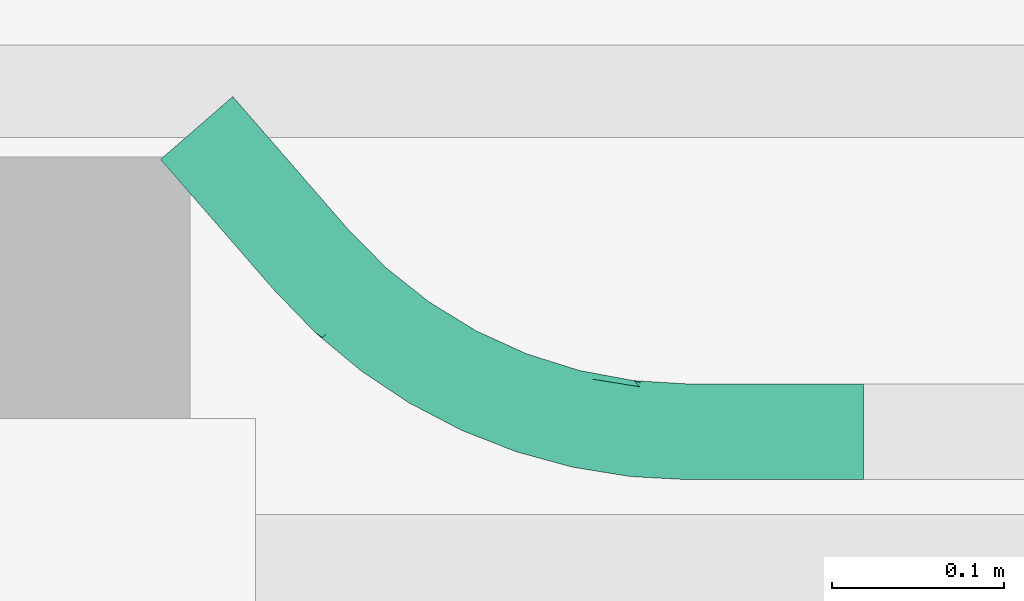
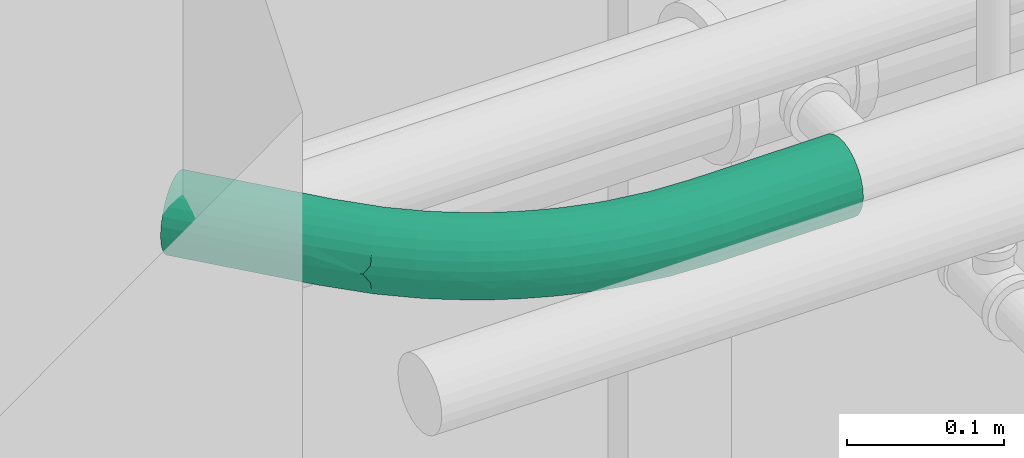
# One storey, part 107 of 108: 1 cable carrier fitting.
"""IFC4 building model written with IfcOpenShell, lengths in feet."""

from ifc_helpers import new_model, entity, si_unit, converted_unit, derived_unit, direction, frame, origin, place, context, subcontext, project, spatial, source, transform, mapped, type_object, type_shapes, element, save


model = new_model("IFC4")

# Units and contexts
model_context = context("Model", 3, precision=0.0001, world=origin(), true_north=direction((6.12303176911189e-17, 1.0)))
body_context = subcontext(model_context, "Body", "Model", "MODEL_VIEW")
ifc_project = project(units=[converted_unit("LENGTHUNIT", "FOOT", entity("IfcRatioMeasure", 0.3048), si_unit("LENGTHUNIT", "METRE"), dimensions=[1, 0, 0, 0, 0, 0, 0]), converted_unit("AREAUNIT", "SQUARE FOOT", entity("IfcRatioMeasure", 0.09290304), si_unit("AREAUNIT", "SQUARE_METRE"), dimensions=[2, 0, 0, 0, 0, 0, 0]), converted_unit("VOLUMEUNIT", "CUBIC FOOT", entity("IfcRatioMeasure", 0.028316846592), si_unit("VOLUMEUNIT", "CUBIC_METRE"), dimensions=[3, 0, 0, 0, 0, 0, 0]), converted_unit("PLANEANGLEUNIT", "DEGREE", entity("IfcRatioMeasure", 0.0174532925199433), si_unit("PLANEANGLEUNIT", "RADIAN"), dimensions=[0, 0, 0, 0, 0, 0, 0]), si_unit("MASSUNIT", "GRAM", prefix="KILO"), derived_unit("MASSDENSITYUNIT", [(si_unit("MASSUNIT", "GRAM", prefix="KILO"), 1), (si_unit("LENGTHUNIT", "METRE"), -3)]), si_unit("TIMEUNIT", "SECOND"), si_unit("FREQUENCYUNIT", "HERTZ"), si_unit("THERMODYNAMICTEMPERATUREUNIT", "DEGREE_CELSIUS"), derived_unit("THERMALTRANSMITTANCEUNIT", [(si_unit("MASSUNIT", "GRAM", prefix="KILO"), 1), (si_unit("THERMODYNAMICTEMPERATUREUNIT", "KELVIN"), -1), (si_unit("TIMEUNIT", "SECOND"), -3)]), derived_unit("VOLUMETRICFLOWRATEUNIT", [(si_unit("LENGTHUNIT", "METRE"), 3), (si_unit("TIMEUNIT", "SECOND"), -1)]), si_unit("ELECTRICCURRENTUNIT", "AMPERE"), si_unit("ELECTRICVOLTAGEUNIT", "VOLT"), si_unit("POWERUNIT", "WATT"), si_unit("FORCEUNIT", "NEWTON"), si_unit("ILLUMINANCEUNIT", "LUX"), si_unit("LUMINOUSFLUXUNIT", "LUMEN"), si_unit("LUMINOUSINTENSITYUNIT", "CANDELA"), derived_unit("USERDEFINED", [(si_unit("MASSUNIT", "GRAM", prefix="KILO"), -1), (si_unit("LENGTHUNIT", "METRE"), -2), (si_unit("TIMEUNIT", "SECOND"), 3), (si_unit("LUMINOUSFLUXUNIT", "LUMEN"), 1)]), derived_unit("LINEARVELOCITYUNIT", [(si_unit("LENGTHUNIT", "METRE"), 1), (si_unit("TIMEUNIT", "SECOND"), -1)]), si_unit("PRESSUREUNIT", "PASCAL"), derived_unit("USERDEFINED", [(si_unit("LENGTHUNIT", "METRE"), -2), (si_unit("MASSUNIT", "GRAM", prefix="KILO"), 1), (si_unit("TIMEUNIT", "SECOND"), -2)])], contexts=[model_context])

# Site, building, storey
site_placement = place(None, origin())
site = spatial("IfcSite", under=ifc_project, at=site_placement, Name="Default", CompositionType="ELEMENT")
building_placement = place(site_placement, origin())
building = spatial("IfcBuilding", under=site, at=building_placement, CompositionType="ELEMENT")
storey_placement = place(building_placement, frame((0.0, 0.0, 168.0)))
storey = spatial("IfcBuildingStorey", under=building, at=storey_placement, Name="Level 15", CompositionType="ELEMENT", Elevation=168.0)

# Cable carrier fitting
cable_carrier_fitting_type = type_object("IfcCableCarrierFittingType", Name="Standard", PredefinedType="NOTDEFINED")
cartesian_point_1 = entity("IfcCartesianPoint", [-0.770070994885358, -0.0915416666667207, 0.0])
vertex_point_1 = entity("IfcVertexPoint", cartesian_point_1)
cartesian_point_2 = entity("IfcCartesianPoint", [-0.770070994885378, 0.0915416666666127, 0.0])
vertex_point_2 = entity("IfcVertexPoint", cartesian_point_2)
cartesian_point_3 = entity("IfcCartesianPoint", [-0.770070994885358, 0.0, 0.0])
ifc_direction_1 = entity("IfcDirection", [-1.0, 0.0, 0.0])
ifc_direction_2 = entity("IfcDirection", [0.0, 1.0, 0.0])
edge_curve_1 = entity("IfcEdgeCurve", vertex_point_1, vertex_point_2, entity("IfcTrimmedCurve", entity("IfcCircle", entity("IfcAxis2Placement3D", cartesian_point_3, ifc_direction_1, ifc_direction_2), 0.0915416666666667), [cartesian_point_1], [cartesian_point_2], True, "CARTESIAN"), True)
edge_curve_2 = entity("IfcEdgeCurve", vertex_point_2, vertex_point_1, entity("IfcTrimmedCurve", entity("IfcCircle", entity("IfcAxis2Placement3D", cartesian_point_3, ifc_direction_1, ifc_direction_2), 0.0915416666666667), [cartesian_point_2], [cartesian_point_1], True, "CARTESIAN"), True)
ifc_direction_3 = entity("IfcDirection", [0.0, 0.0, 1.0])
cartesian_point_4 = entity("IfcCartesianPoint", [-0.436737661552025, -0.0915416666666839, 0.0])
vertex_point_3 = entity("IfcVertexPoint", cartesian_point_4)
edge_curve_3 = entity("IfcEdgeCurve", vertex_point_1, vertex_point_3, entity("IfcTrimmedCurve", entity("IfcLine", cartesian_point_1, entity("IfcVector", entity("IfcDirection", [1.0, 0.0, 0.0]), 1.0)), [cartesian_point_1], [cartesian_point_4], True, "CARTESIAN"), True)
cartesian_point_5 = entity("IfcCartesianPoint", [-0.436737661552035, 0.0915416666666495, 0.0])
vertex_point_4 = entity("IfcVertexPoint", cartesian_point_5)
cartesian_point_6 = entity("IfcCartesianPoint", [-0.436737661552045, 0.0, 0.0])
edge_curve_4 = entity("IfcEdgeCurve", vertex_point_3, vertex_point_4, entity("IfcTrimmedCurve", entity("IfcCircle", entity("IfcAxis2Placement3D", cartesian_point_6, ifc_direction_1, ifc_direction_2), 0.0915416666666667), [cartesian_point_4], [cartesian_point_5], True, "CARTESIAN"), True)
edge_curve_5 = entity("IfcEdgeCurve", vertex_point_4, vertex_point_2, entity("IfcTrimmedCurve", entity("IfcLine", cartesian_point_2, entity("IfcVector", ifc_direction_1, 1.0)), [cartesian_point_5], [cartesian_point_2], True, "CARTESIAN"), True)
edge_curve_6 = entity("IfcEdgeCurve", vertex_point_4, vertex_point_3, entity("IfcTrimmedCurve", entity("IfcCircle", entity("IfcAxis2Placement3D", cartesian_point_6, ifc_direction_1, ifc_direction_2), 0.0915416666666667), [cartesian_point_5], [cartesian_point_4], True, "CARTESIAN"), True)
cartesian_point_7 = entity("IfcCartesianPoint", [0.217438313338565, 0.389666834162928, 0.0])
vertex_point_5 = entity("IfcVertexPoint", cartesian_point_7)
cartesian_point_8 = entity("IfcCartesianPoint", [-0.436737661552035, 0.958333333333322, 0.0])
ifc_direction_4 = entity("IfcDirection", [0.0, -1.0, 0.0])
edge_curve_7 = entity("IfcEdgeCurve", vertex_point_5, vertex_point_4, entity("IfcTrimmedCurve", entity("IfcCircle", entity("IfcAxis2Placement3D", cartesian_point_8, entity("IfcDirection", [0.0, 0.0, -1.0]), ifc_direction_4), 0.866791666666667), [cartesian_point_7], [cartesian_point_5], True, "CARTESIAN"), True)
cartesian_point_9 = entity("IfcCartesianPoint", [0.355613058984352, 0.269553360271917, 0.0])
vertex_point_6 = entity("IfcVertexPoint", cartesian_point_9)
edge_curve_8 = entity("IfcEdgeCurve", vertex_point_3, vertex_point_6, entity("IfcTrimmedCurve", entity("IfcCircle", entity("IfcAxis2Placement3D", cartesian_point_8, ifc_direction_3, ifc_direction_4), 1.049875), [cartesian_point_4], [cartesian_point_9], True, "CARTESIAN"), True)
cartesian_point_10 = entity("IfcCartesianPoint", [0.286525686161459, 0.329610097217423, 0.0])
edge_curve_9 = entity("IfcEdgeCurve", vertex_point_6, vertex_point_5, entity("IfcTrimmedCurve", entity("IfcCircle", entity("IfcAxis2Placement3D", cartesian_point_10, entity("IfcDirection", [-0.656059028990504, -0.754709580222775, 0.0]), entity("IfcDirection", [-0.754709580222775, 0.656059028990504, 0.0])), 0.0915416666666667), [cartesian_point_9], [cartesian_point_7], True, "CARTESIAN"), True)
cartesian_point_11 = entity("IfcCartesianPoint", [0.521595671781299, 0.958333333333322, 0.0])
cartesian_point_12 = entity("IfcCartesianPoint", [0.613137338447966, 0.958333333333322, 0.0])
cartesian_point_13 = entity("IfcCartesianPoint", [0.430054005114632, 0.958333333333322, 0.0])
edge_curve_10 = entity("IfcEdgeCurve", vertex_point_5, vertex_point_6, entity("IfcTrimmedCurve", entity("IfcCircle", entity("IfcAxis2Placement3D", cartesian_point_10, entity("IfcDirection", [-0.656059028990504, -0.754709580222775, 0.0]), entity("IfcDirection", [-0.754709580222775, 0.656059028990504, 0.0])), 0.0915416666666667), [cartesian_point_7], [cartesian_point_9], True, "CARTESIAN"), True)
cartesian_point_14 = entity("IfcCartesianPoint", [0.574299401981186, 0.521123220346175, 0.0])
vertex_point_7 = entity("IfcVertexPoint", cartesian_point_14)
cartesian_point_15 = entity("IfcCartesianPoint", [0.4361246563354, 0.641236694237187, 0.0])
vertex_point_8 = entity("IfcVertexPoint", cartesian_point_15)
cartesian_point_16 = entity("IfcCartesianPoint", [0.505212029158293, 0.581179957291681, 0.0])
edge_curve_11 = entity("IfcEdgeCurve", vertex_point_7, vertex_point_8, entity("IfcTrimmedCurve", entity("IfcCircle", entity("IfcAxis2Placement3D", cartesian_point_16, entity("IfcDirection", [0.656059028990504, 0.754709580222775, 0.0]), entity("IfcDirection", [-0.754709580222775, 0.656059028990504, 0.0])), 0.0915416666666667), [cartesian_point_14], [cartesian_point_15], True, "CARTESIAN"), True)
edge_curve_12 = entity("IfcEdgeCurve", vertex_point_8, vertex_point_7, entity("IfcTrimmedCurve", entity("IfcCircle", entity("IfcAxis2Placement3D", cartesian_point_16, entity("IfcDirection", [0.656059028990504, 0.754709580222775, 0.0]), entity("IfcDirection", [-0.754709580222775, 0.656059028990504, 0.0])), 0.0915416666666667), [cartesian_point_15], [cartesian_point_14], True, "CARTESIAN"), True)
edge_curve_13 = entity("IfcEdgeCurve", vertex_point_6, vertex_point_7, entity("IfcTrimmedCurve", entity("IfcLine", cartesian_point_9, entity("IfcVector", entity("IfcDirection", [0.656059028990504, 0.754709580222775, 0.0]), 1.0)), [cartesian_point_9], [cartesian_point_14], True, "CARTESIAN"), True)
edge_curve_14 = entity("IfcEdgeCurve", vertex_point_8, vertex_point_5, entity("IfcTrimmedCurve", entity("IfcLine", cartesian_point_7, entity("IfcVector", entity("IfcDirection", [-0.656059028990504, -0.754709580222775, 0.0]), 1.0)), [cartesian_point_15], [cartesian_point_7], True, "CARTESIAN"), True)
shared_shape = source(origin(), body_context, "Body", "AdvancedBrep", [
    entity("IfcAdvancedBrep", entity("IfcClosedShell", [entity("IfcAdvancedFace", [entity("IfcFaceOuterBound", entity("IfcEdgeLoop", [entity("IfcOrientedEdge", None, None, edge_curve_1, True), entity("IfcOrientedEdge", None, None, edge_curve_2, True)]), True)], entity("IfcPlane", entity("IfcAxis2Placement3D", cartesian_point_3, ifc_direction_1, ifc_direction_3)), True), entity("IfcAdvancedFace", [entity("IfcFaceOuterBound", entity("IfcEdgeLoop", [entity("IfcOrientedEdge", None, None, edge_curve_1, False), entity("IfcOrientedEdge", None, None, edge_curve_3, True), entity("IfcOrientedEdge", None, None, edge_curve_4, True), entity("IfcOrientedEdge", None, None, edge_curve_5, True)]), True)], entity("IfcCylindricalSurface", entity("IfcAxis2Placement3D", cartesian_point_3, ifc_direction_1, ifc_direction_2), 0.0915416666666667), True), entity("IfcAdvancedFace", [entity("IfcFaceOuterBound", entity("IfcEdgeLoop", [entity("IfcOrientedEdge", None, None, edge_curve_2, False), entity("IfcOrientedEdge", None, None, edge_curve_5, False), entity("IfcOrientedEdge", None, None, edge_curve_6, True), entity("IfcOrientedEdge", None, None, edge_curve_3, False)]), True)], entity("IfcCylindricalSurface", entity("IfcAxis2Placement3D", cartesian_point_3, ifc_direction_1, ifc_direction_2), 0.0915416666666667), True), entity("IfcAdvancedFace", [entity("IfcFaceOuterBound", entity("IfcEdgeLoop", [entity("IfcOrientedEdge", None, None, edge_curve_7, True), entity("IfcOrientedEdge", None, None, edge_curve_4, False), entity("IfcOrientedEdge", None, None, edge_curve_8, True), entity("IfcOrientedEdge", None, None, edge_curve_9, True)]), True)], entity("IfcSurfaceOfRevolution", entity("IfcArbitraryOpenProfileDef", "CURVE", None, entity("IfcTrimmedCurve", entity("IfcTrimmedCurve", entity("IfcCircle", entity("IfcAxis2Placement3D", cartesian_point_11, ifc_direction_4, ifc_direction_1), 0.0915416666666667), [cartesian_point_12], [cartesian_point_13], True, "CARTESIAN"), [cartesian_point_12], [cartesian_point_13], True, "CARTESIAN")), None, entity("IfcAxis1Placement", cartesian_point_8, ifc_direction_3)), True), entity("IfcAdvancedFace", [entity("IfcFaceOuterBound", entity("IfcEdgeLoop", [entity("IfcOrientedEdge", None, None, edge_curve_8, False), entity("IfcOrientedEdge", None, None, edge_curve_6, False), entity("IfcOrientedEdge", None, None, edge_curve_7, False), entity("IfcOrientedEdge", None, None, edge_curve_10, True)]), True)], entity("IfcSurfaceOfRevolution", entity("IfcArbitraryOpenProfileDef", "CURVE", None, entity("IfcTrimmedCurve", entity("IfcTrimmedCurve", entity("IfcCircle", entity("IfcAxis2Placement3D", cartesian_point_11, ifc_direction_4, ifc_direction_1), 0.0915416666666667), [cartesian_point_13], [cartesian_point_12], True, "CARTESIAN"), [cartesian_point_13], [cartesian_point_12], True, "CARTESIAN")), None, entity("IfcAxis1Placement", cartesian_point_8, ifc_direction_3)), True), entity("IfcAdvancedFace", [entity("IfcFaceOuterBound", entity("IfcEdgeLoop", [entity("IfcOrientedEdge", None, None, edge_curve_11, True), entity("IfcOrientedEdge", None, None, edge_curve_12, True)]), True)], entity("IfcPlane", entity("IfcAxis2Placement3D", cartesian_point_16, entity("IfcDirection", [0.656059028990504, 0.754709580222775, 0.0]), ifc_direction_3)), True), entity("IfcAdvancedFace", [entity("IfcFaceOuterBound", entity("IfcEdgeLoop", [entity("IfcOrientedEdge", None, None, edge_curve_9, False), entity("IfcOrientedEdge", None, None, edge_curve_13, True), entity("IfcOrientedEdge", None, None, edge_curve_12, False), entity("IfcOrientedEdge", None, None, edge_curve_14, True)]), True)], entity("IfcCylindricalSurface", entity("IfcAxis2Placement3D", cartesian_point_10, entity("IfcDirection", [-0.656059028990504, -0.754709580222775, 0.0]), entity("IfcDirection", [-0.754709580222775, 0.656059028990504, 0.0])), 0.0915416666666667), True), entity("IfcAdvancedFace", [entity("IfcFaceOuterBound", entity("IfcEdgeLoop", [entity("IfcOrientedEdge", None, None, edge_curve_10, False), entity("IfcOrientedEdge", None, None, edge_curve_14, False), entity("IfcOrientedEdge", None, None, edge_curve_11, False), entity("IfcOrientedEdge", None, None, edge_curve_13, False)]), True)], entity("IfcCylindricalSurface", entity("IfcAxis2Placement3D", cartesian_point_10, entity("IfcDirection", [-0.656059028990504, -0.754709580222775, 0.0]), entity("IfcDirection", [-0.754709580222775, 0.656059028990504, 0.0])), 0.0915416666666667), True)])),
])
type_shapes(cable_carrier_fitting_type, [shared_shape])
cable_carrier_fitting_placement = place(storey_placement, frame((-52.2218503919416, 9.77008036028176, 9.81249999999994), z_axis=(0.0, 0.0, 1.0), x_axis=(0.656059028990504, -0.754709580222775, 0.0)))
element("IfcCableCarrierFitting", 1, at=cable_carrier_fitting_placement, inside=storey, type_object=cable_carrier_fitting_type, Name="Conduit Elbow - Steel:Standard", ObjectType="Conduit Elbow - Steel:Standard", PredefinedType="NOTDEFINED", context=body_context, shape_type="MappedRepresentation", body=[
    mapped(shared_shape, transform((0.0, 0.0, 0.0), scale=1.0)),
])

save(model, "model.ifc")
